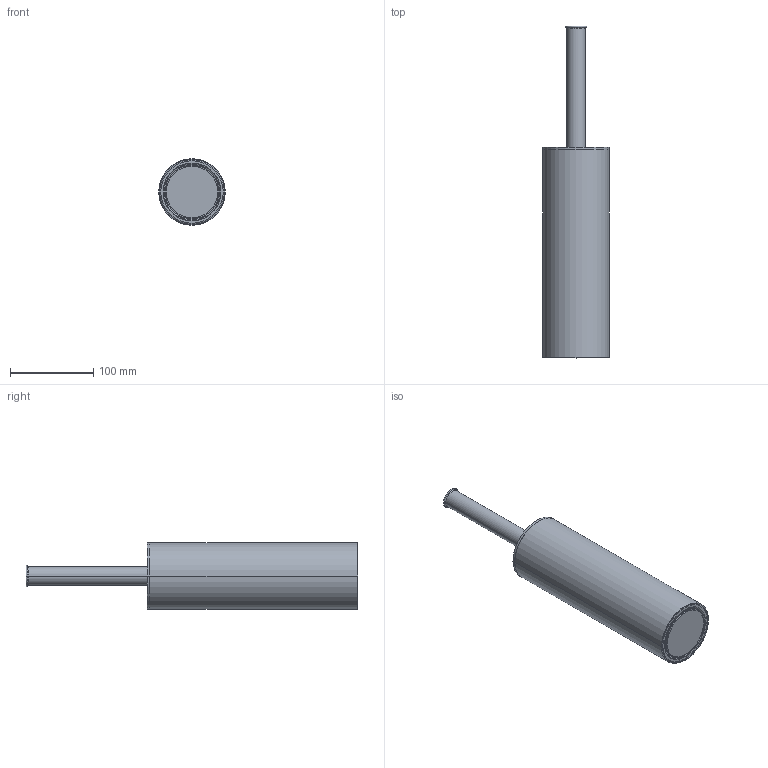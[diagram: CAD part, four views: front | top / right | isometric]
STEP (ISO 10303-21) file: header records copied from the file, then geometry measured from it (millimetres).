
FILE_DESCRIPTION((''),'2;1');
FILE_NAME('83000H9460000000_SW0001','2025-11-04T16:15:20',('ufftecnico'),(''),'CREO PARAMETRIC BY PTC INC, 2025010','CREO PARAMETRIC BY PTC INC, 2025010','');
FILE_SCHEMA(('AUTOMOTIVE_DESIGN { 1 0 10303 214 1 1 1 1 }'));
Length unit declared in the file: millimetre
Products named in the file (1): 83000H9460000000_SW0001
Bounding box: 80 x 399.7 x 80 mm (x, y, z)
Volume: 1329042.4 mm3; surface area: 84585.4 mm2
Topology: 1 solids, 1 shells, 32 faces, 62 edges, 38 vertices
Faces by surface type: cylinder 12, torus 10, plane 8, cone 2
Entity records: 1170 total; most frequent: DIRECTION 192, CARTESIAN_POINT 146, ORIENTED_EDGE 124, AXIS2_PLACEMENT_3D 87, EDGE_CURVE 62, CIRCLE 48, VERTEX_POINT 38, EDGE_LOOP 38
